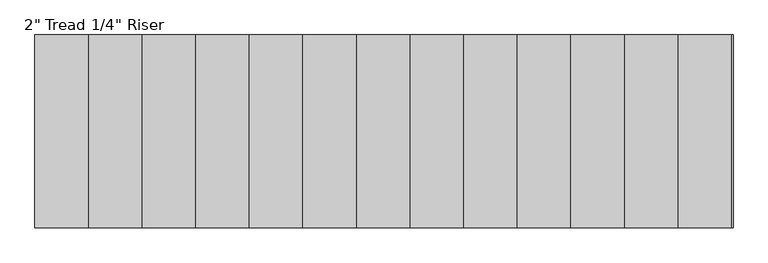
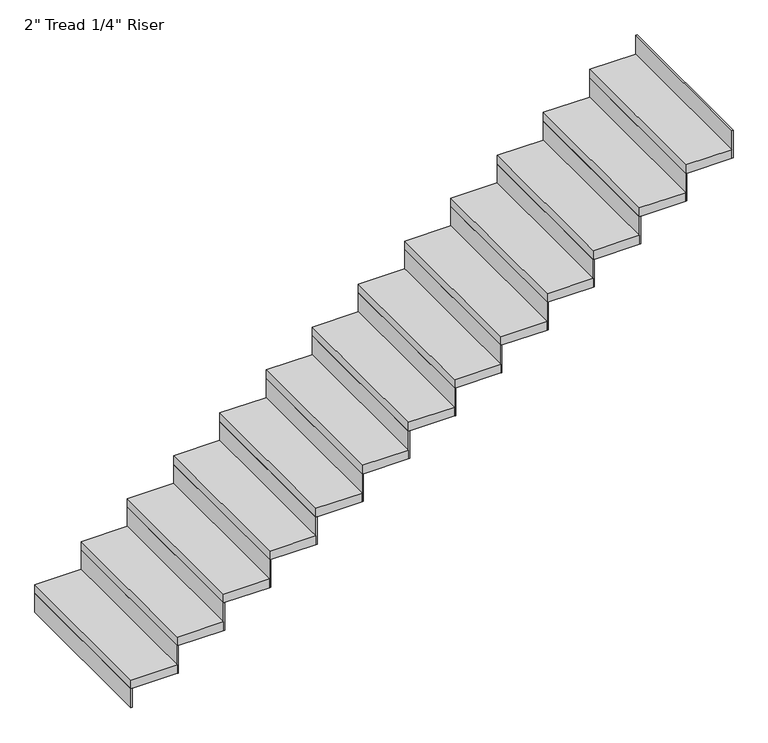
"""IFC4 building model written with IfcOpenShell, lengths in millimetres: stair flight geometry."""

from ifc_helpers import new_model, si_unit, frame, origin, origin_with_axes, place, context, project, spatial, polyline, outline, extrude, source, transform, mapped, element, save


def stair_flight_66ac9dfc(model_context):
    return source(origin(), model_context, "Body", "SweptSolid", [
        extrude(outline(polyline([(160010.2622654, -35524.5173894), (160003.9122654, -35524.5173894), (160003.9122654, -34610.1173894), (160010.2622654, -34610.1173894), (160010.2622654, -35524.5173894)])), origin_with_axes(), (0.0, 0.0, 1.0), 109.6210526),
        extrude(outline(polyline([(160257.9122654, -34610.1173894), (160257.9122654, -35524.5173894), (160003.9122654, -35524.5173894), (160003.9122654, -34610.1173894), (160257.9122654, -34610.1173894)])), frame((0.0, 0.0, 109.6210526), z_axis=(0.0, 0.0, 1.0), x_axis=(1.0, 0.0, 0.0)), (0.0, 0.0, 1.0), 50.8),
        extrude(outline(polyline([(160264.2622654, -35524.5173894), (160257.9122654, -35524.5173894), (160257.9122654, -34610.1173894), (160264.2622654, -34610.1173894), (160264.2622654, -35524.5173894)])), frame((0.0, 0.0, 109.6210526), z_axis=(0.0, 0.0, 1.0), x_axis=(1.0, 0.0, 0.0)), (0.0, 0.0, 1.0), 160.4210526),
        extrude(outline(polyline([(160511.9122654, -34610.1173894), (160511.9122654, -35524.5173894), (160257.9122654, -35524.5173894), (160257.9122654, -34610.1173894), (160511.9122654, -34610.1173894)])), frame((0.0, 0.0, 270.0421053), z_axis=(0.0, 0.0, 1.0), x_axis=(1.0, 0.0, 0.0)), (0.0, 0.0, 1.0), 50.8),
        extrude(outline(polyline([(160518.2622654, -35524.5173894), (160511.9122654, -35524.5173894), (160511.9122654, -34610.1173894), (160518.2622654, -34610.1173894), (160518.2622654, -35524.5173894)])), frame((0.0, 0.0, 270.0421053), z_axis=(0.0, 0.0, 1.0), x_axis=(1.0, 0.0, 0.0)), (0.0, 0.0, 1.0), 160.4210526),
        extrude(outline(polyline([(160765.9122654, -34610.1173894), (160765.9122654, -35524.5173894), (160511.9122654, -35524.5173894), (160511.9122654, -34610.1173894), (160765.9122654, -34610.1173894)])), frame((0.0, 0.0, 430.4631579), z_axis=(0.0, 0.0, 1.0), x_axis=(1.0, 0.0, 0.0)), (0.0, 0.0, 1.0), 50.8),
        extrude(outline(polyline([(160772.2622654, -35524.5173894), (160765.9122654, -35524.5173894), (160765.9122654, -34610.1173894), (160772.2622654, -34610.1173894), (160772.2622654, -35524.5173894)])), frame((0.0, 0.0, 430.4631579), z_axis=(0.0, 0.0, 1.0), x_axis=(1.0, 0.0, 0.0)), (0.0, 0.0, 1.0), 160.4210526),
        extrude(outline(polyline([(161019.9122654, -34610.1173894), (161019.9122654, -35524.5173894), (160765.9122654, -35524.5173894), (160765.9122654, -34610.1173894), (161019.9122654, -34610.1173894)])), frame((0.0, 0.0, 590.8842105), z_axis=(0.0, 0.0, 1.0), x_axis=(1.0, 0.0, 0.0)), (0.0, 0.0, 1.0), 50.8),
        extrude(outline(polyline([(161026.2622654, -35524.5173894), (161019.9122654, -35524.5173894), (161019.9122654, -34610.1173894), (161026.2622654, -34610.1173894), (161026.2622654, -35524.5173894)])), frame((0.0, 0.0, 590.8842105), z_axis=(0.0, 0.0, 1.0), x_axis=(1.0, 0.0, 0.0)), (0.0, 0.0, 1.0), 160.4210526),
        extrude(outline(polyline([(161273.9122654, -34610.1173894), (161273.9122654, -35524.5173894), (161019.9122654, -35524.5173894), (161019.9122654, -34610.1173894), (161273.9122654, -34610.1173894)])), frame((0.0, 0.0, 751.3052632), z_axis=(0.0, 0.0, 1.0), x_axis=(1.0, 0.0, 0.0)), (0.0, 0.0, 1.0), 50.8),
        extrude(outline(polyline([(161280.2622654, -35524.5173894), (161273.9122654, -35524.5173894), (161273.9122654, -34610.1173894), (161280.2622654, -34610.1173894), (161280.2622654, -35524.5173894)])), frame((0.0, 0.0, 751.3052632), z_axis=(0.0, 0.0, 1.0), x_axis=(1.0, 0.0, 0.0)), (0.0, 0.0, 1.0), 160.4210526),
        extrude(outline(polyline([(161527.9122654, -34610.1173894), (161527.9122654, -35524.5173894), (161273.9122654, -35524.5173894), (161273.9122654, -34610.1173894), (161527.9122654, -34610.1173894)])), frame((0.0, 0.0, 911.7263158), z_axis=(0.0, 0.0, 1.0), x_axis=(1.0, 0.0, 0.0)), (0.0, 0.0, 1.0), 50.8),
        extrude(outline(polyline([(161534.2622654, -35524.5173894), (161527.9122654, -35524.5173894), (161527.9122654, -34610.1173894), (161534.2622654, -34610.1173894), (161534.2622654, -35524.5173894)])), frame((0.0, 0.0, 911.7263158), z_axis=(0.0, 0.0, 1.0), x_axis=(1.0, 0.0, 0.0)), (0.0, 0.0, 1.0), 160.4210526),
        extrude(outline(polyline([(161781.9122654, -34610.1173894), (161781.9122654, -35524.5173894), (161527.9122654, -35524.5173894), (161527.9122654, -34610.1173894), (161781.9122654, -34610.1173894)])), frame((0.0, 0.0, 1072.1473684), z_axis=(0.0, 0.0, 1.0), x_axis=(1.0, 0.0, 0.0)), (0.0, 0.0, 1.0), 50.8),
        extrude(outline(polyline([(161788.2622654, -35524.5173894), (161781.9122654, -35524.5173894), (161781.9122654, -34610.1173894), (161788.2622654, -34610.1173894), (161788.2622654, -35524.5173894)])), frame((0.0, 0.0, 1072.1473684), z_axis=(0.0, 0.0, 1.0), x_axis=(1.0, 0.0, 0.0)), (0.0, 0.0, 1.0), 160.4210526),
        extrude(outline(polyline([(162035.9122654, -34610.1173894), (162035.9122654, -35524.5173894), (161781.9122654, -35524.5173894), (161781.9122654, -34610.1173894), (162035.9122654, -34610.1173894)])), frame((0.0, 0.0, 1232.5684211), z_axis=(0.0, 0.0, 1.0), x_axis=(1.0, 0.0, 0.0)), (0.0, 0.0, 1.0), 50.8),
        extrude(outline(polyline([(162042.2622654, -35524.5173894), (162035.9122654, -35524.5173894), (162035.9122654, -34610.1173894), (162042.2622654, -34610.1173894), (162042.2622654, -35524.5173894)])), frame((0.0, 0.0, 1232.5684211), z_axis=(0.0, 0.0, 1.0), x_axis=(1.0, 0.0, 0.0)), (0.0, 0.0, 1.0), 160.4210526),
        extrude(outline(polyline([(162289.9122654, -34610.1173894), (162289.9122654, -35524.5173894), (162035.9122654, -35524.5173894), (162035.9122654, -34610.1173894), (162289.9122654, -34610.1173894)])), frame((0.0, 0.0, 1392.9894737), z_axis=(0.0, 0.0, 1.0), x_axis=(1.0, 0.0, 0.0)), (0.0, 0.0, 1.0), 50.8),
        extrude(outline(polyline([(162296.2622654, -35524.5173894), (162289.9122654, -35524.5173894), (162289.9122654, -34610.1173894), (162296.2622654, -34610.1173894), (162296.2622654, -35524.5173894)])), frame((0.0, 0.0, 1392.9894737), z_axis=(0.0, 0.0, 1.0), x_axis=(1.0, 0.0, 0.0)), (0.0, 0.0, 1.0), 160.4210526),
        extrude(outline(polyline([(162543.9122654, -34610.1173894), (162543.9122654, -35524.5173894), (162289.9122654, -35524.5173894), (162289.9122654, -34610.1173894), (162543.9122654, -34610.1173894)])), frame((0.0, 0.0, 1553.4105263), z_axis=(0.0, 0.0, 1.0), x_axis=(1.0, 0.0, 0.0)), (0.0, 0.0, 1.0), 50.8),
        extrude(outline(polyline([(162550.2622654, -35524.5173894), (162543.9122654, -35524.5173894), (162543.9122654, -34610.1173894), (162550.2622654, -34610.1173894), (162550.2622654, -35524.5173894)])), frame((0.0, 0.0, 1553.4105263), z_axis=(0.0, 0.0, 1.0), x_axis=(1.0, 0.0, 0.0)), (0.0, 0.0, 1.0), 160.4210526),
        extrude(outline(polyline([(162797.9122654, -34610.1173894), (162797.9122654, -35524.5173894), (162543.9122654, -35524.5173894), (162543.9122654, -34610.1173894), (162797.9122654, -34610.1173894)])), frame((0.0, 0.0, 1713.8315789), z_axis=(0.0, 0.0, 1.0), x_axis=(1.0, 0.0, 0.0)), (0.0, 0.0, 1.0), 50.8),
        extrude(outline(polyline([(162804.2622654, -35524.5173894), (162797.9122654, -35524.5173894), (162797.9122654, -34610.1173894), (162804.2622654, -34610.1173894), (162804.2622654, -35524.5173894)])), frame((0.0, 0.0, 1713.8315789), z_axis=(0.0, 0.0, 1.0), x_axis=(1.0, 0.0, 0.0)), (0.0, 0.0, 1.0), 160.4210526),
        extrude(outline(polyline([(163051.9122654, -34610.1173894), (163051.9122654, -35524.5173894), (162797.9122654, -35524.5173894), (162797.9122654, -34610.1173894), (163051.9122654, -34610.1173894)])), frame((0.0, 0.0, 1874.2526316), z_axis=(0.0, 0.0, 1.0), x_axis=(1.0, 0.0, 0.0)), (0.0, 0.0, 1.0), 50.8),
        extrude(outline(polyline([(163058.2622654, -35524.5173894), (163051.9122654, -35524.5173894), (163051.9122654, -34610.1173894), (163058.2622654, -34610.1173894), (163058.2622654, -35524.5173894)])), frame((0.0, 0.0, 1874.2526316), z_axis=(0.0, 0.0, 1.0), x_axis=(1.0, 0.0, 0.0)), (0.0, 0.0, 1.0), 160.4210526),
        extrude(outline(polyline([(163312.2622654, -35524.5173894), (163305.9122654, -35524.5173894), (163305.9122654, -34610.1173894), (163312.2622654, -34610.1173894), (163312.2622654, -35524.5173894)])), frame((0.0, 0.0, 2034.6736842), z_axis=(0.0, 0.0, 1.0), x_axis=(1.0, 0.0, 0.0)), (0.0, 0.0, 1.0), 160.4210526),
        extrude(outline(polyline([(163305.9122654, -34610.1173894), (163305.9122654, -35524.5173894), (163051.9122654, -35524.5173894), (163051.9122654, -34610.1173894), (163305.9122654, -34610.1173894)])), frame((0.0, 0.0, 2034.6736842), z_axis=(0.0, 0.0, 1.0), x_axis=(1.0, 0.0, 0.0)), (0.0, 0.0, 1.0), 50.8),
    ])


if __name__ == "__main__":
    model = new_model("IFC4")
    model_context = context("Model", 3, world=origin())
    ifc_project = project(units=[si_unit("LENGTHUNIT", "METRE", prefix="MILLI")], contexts=[model_context])
    site = spatial("IfcSite", under=ifc_project)
    building = spatial("IfcBuilding", under=site)
    placement = place(None, origin())
    stair_flight_shape = stair_flight_66ac9dfc(model_context)
    element("IfcStairFlight", 1, ObjectType="2\" Tread 1/4\" Riser", at=placement, inside=building, context=model_context, shape_type="MappedRepresentation", body=[
        mapped(stair_flight_shape, transform((0.0, 0.0, 0.0), x_axis=(1.0, 0.0, 0.0), y_axis=(0.0, 1.0, 0.0), z_axis=(0.0, 0.0, 1.0))),
    ])
    save(model, "model.ifc")
